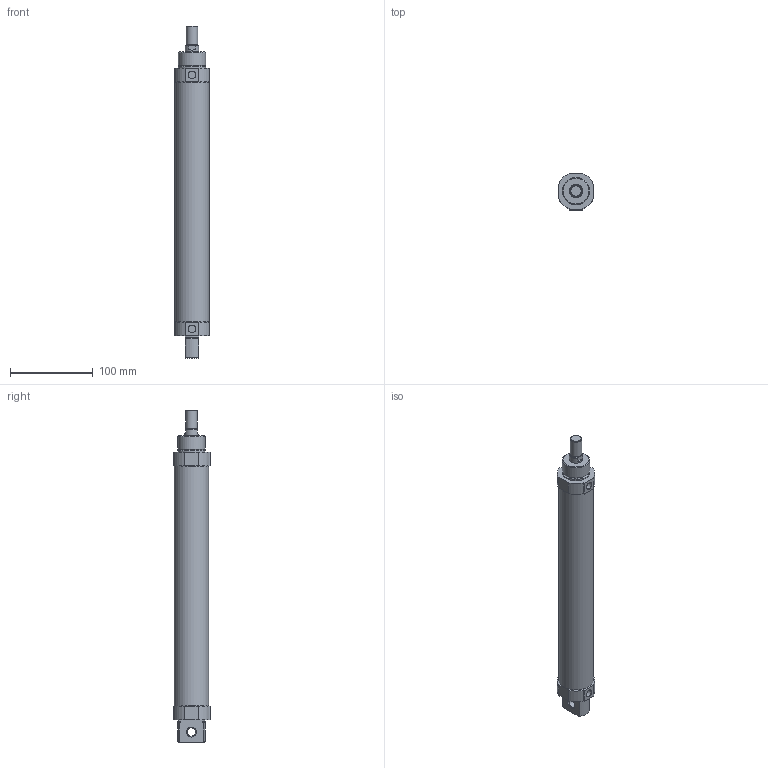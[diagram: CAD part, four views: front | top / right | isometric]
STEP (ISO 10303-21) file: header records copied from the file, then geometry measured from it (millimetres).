
FILE_DESCRIPTION((''),'2;1');
FILE_NAME('I:\3D電子目錄\氣缸\SDA\SDA40\SDA40\SDA40x250.stp','2007-08-06T10:37:27',('Administrator'),(''),'Autodesk Inventor 2008','Autodesk Inventor 2008','');
FILE_SCHEMA(('AUTOMOTIVE_DESIGN { 1 0 10303 214 1 1 1 1 }'));
Length unit declared in the file: millimetre
Products named in the file (1): SDA40X250
Bounding box: 42 x 43.5 x 400 mm (x, y, z)
Volume: 480670.9 mm3; surface area: 53138.1 mm2
Topology: 1 solids, 1 shells, 65 faces, 152 edges, 98 vertices
Faces by surface type: plane 27, cylinder 21, cone 12, torus 3, bspline 2
Full cylindrical faces by diameter (mm): 8.5 x2, 10 x1, 12.6 x1, 14 x1, 16 x1, 33 x2, 41.8 x1
Entity records: 1946 total; most frequent: CARTESIAN_POINT 486, DIRECTION 306, ORIENTED_EDGE 266, EDGE_CURVE 133, AXIS2_PLACEMENT_3D 121, VERTEX_POINT 97, EDGE_LOOP 94, FACE_OUTER_BOUND 65
